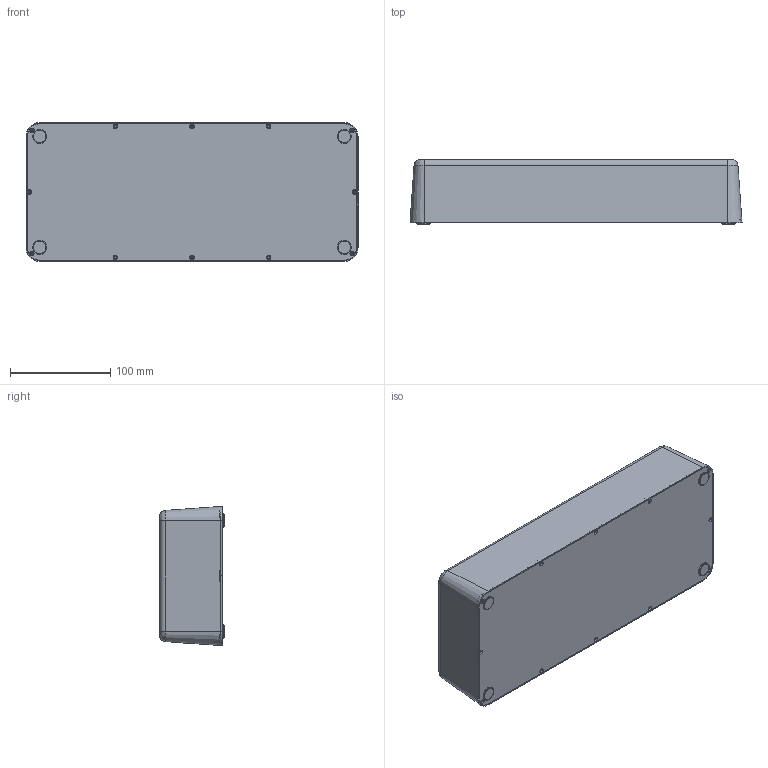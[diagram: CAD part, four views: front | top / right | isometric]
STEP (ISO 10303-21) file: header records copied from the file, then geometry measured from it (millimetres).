
FILE_DESCRIPTION((''),'2;1');
FILE_NAME('DS8_CHARGER-BASE_ASM','2024-06-07T20:59:23',('JEFF'),(''),'CREO PARAMETRIC BY PTC INC, 2022164','CREO PARAMETRIC BY PTC INC, 2022164','');
FILE_SCHEMA(('CONFIG_CONTROL_DESIGN'));
Products named in the file (5): DS8-CHARGER-BASE; DS8-DOCK-BOTTOM; PORT_PIN; WP424SRDT; DS8_CHARGER-BASE_ASM
Assembly tree (4 placements, depth 2):
  DS8_CHARGER-BASE_ASM
    DS8-CHARGER-BASE
    DS8-DOCK-BOTTOM
    PORT_PIN
    WP424SRDT
Bounding box: 330.81 x 64.56 x 138.81 mm (x, y, z)
Volume: 389984.9 mm3; surface area: 381408.4 mm2
Topology: 5 solids, 5 shells, 1579 faces, 4468 edges, 3029 vertices
Faces by surface type: plane 999, cylinder 252, cone 196, extrusion 116, torus 12, bspline 4
Entity records: 60874 total; most frequent: CARTESIAN_POINT 19588, ORIENTED_EDGE 8936, DIRECTION 7975, EDGE_CURVE 4468, VERTEX_POINT 3029, VECTOR 2831, LINE 2715, AXIS2_PLACEMENT_3D 2572
